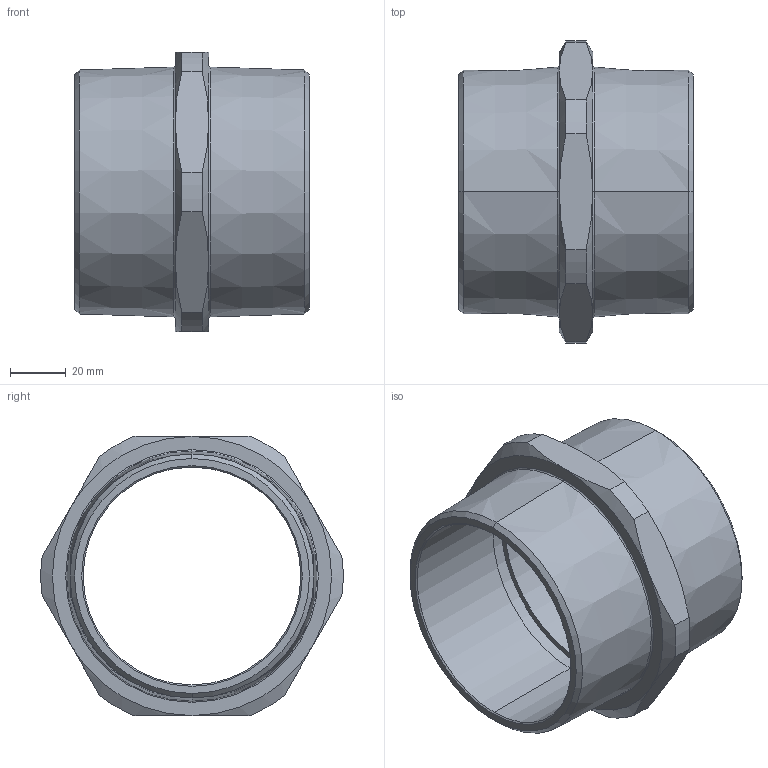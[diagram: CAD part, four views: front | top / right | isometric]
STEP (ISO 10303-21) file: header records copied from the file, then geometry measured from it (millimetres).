
FILE_DESCRIPTION (( 'STEP AP203' ), '1' );
FILE_NAME ('ﾍﾂﾍ8Nﾍ.STEP', '2019-06-05T12:30:04', ( '' ), ( '' ), 'SwSTEP 2.0', 'SolidWorks 2012', '' );
FILE_SCHEMA (( 'CONFIG_CONTROL_DESIGN' ));
Length unit declared in the file: millimetre
Products named in the file (1): ﾍﾂﾍ8Nﾍ
Bounding box: 84 x 108.2 x 100 mm (x, y, z)
Volume: 137899.8 mm3; surface area: 51176 mm2
Topology: 1 solids, 1 shells, 52 faces, 114 edges, 68 vertices
Faces by surface type: cone 24, cylinder 12, plane 12, torus 4
Entity records: 1627 total; most frequent: CARTESIAN_POINT 403, DIRECTION 256, ORIENTED_EDGE 228, EDGE_CURVE 114, AXIS2_PLACEMENT_3D 113, VERTEX_POINT 68, CIRCLE 60, EDGE_LOOP 58
